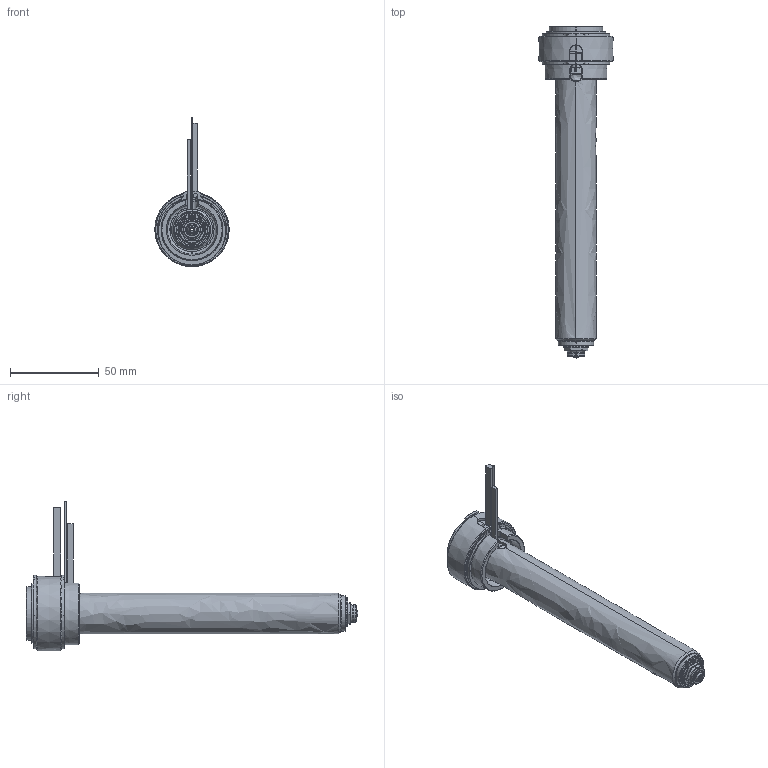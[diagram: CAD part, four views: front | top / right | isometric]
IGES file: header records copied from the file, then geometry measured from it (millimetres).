
Start section: SolidWorks IGES file using analytic representation for surfaces
Global section: file name: C:\Documents and Settings\ws-20\Desktop\TEM\UGER3554-M-A-1 [Øb-1.50  ØC-6.0].IGS; native system: SolidWorks 2012; preprocessor: SolidWorks 2012; author: ws-20; date: 120410.095317; units: millimetre
Bounding box: 42 x 187.4 x 84.4 mm (x, y, z)
Surface area: 51821.9 mm2 (no closed solid volume)
Topology: 0 solids, 0 shells, 197 faces, 3248 edges, 3248 vertices
Faces by surface type: revolution 127, bspline 70
